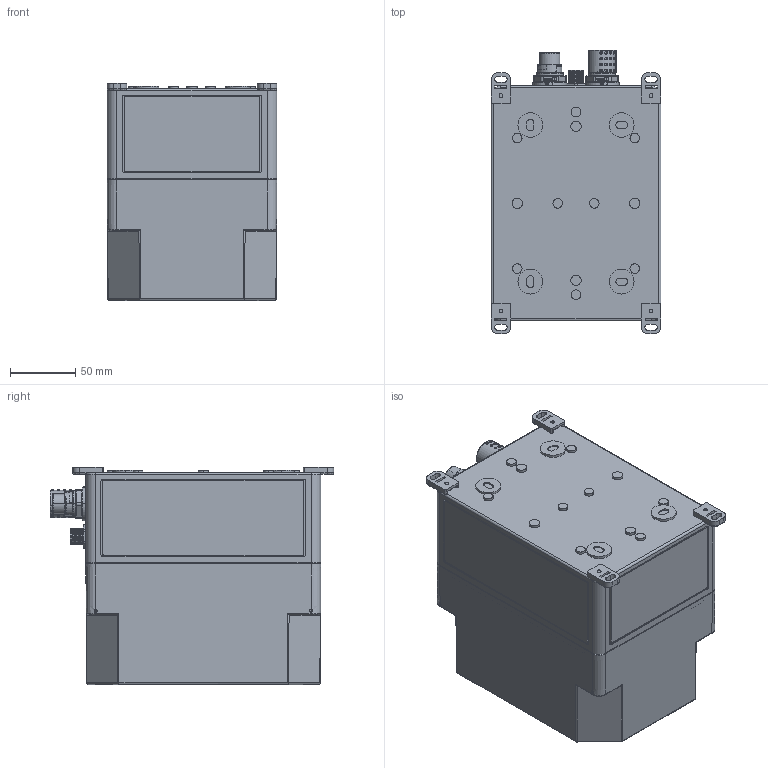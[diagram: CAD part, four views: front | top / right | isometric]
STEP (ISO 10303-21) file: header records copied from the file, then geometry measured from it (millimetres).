
FILE_DESCRIPTION (( 'STEP AP214' ), '1' );
FILE_NAME ('vereinfacht_1148566.STEP', '2020-02-25T14:59:14', ( '' ), ( '' ), 'SwSTEP 2.0', 'SolidWorks 2019', '' );
FILE_SCHEMA (( 'AUTOMOTIVE_DESIGN' ));
Length unit declared in the file: millimetre
Products named in the file (1): vereinfacht_1148566
Bounding box: 130 x 217.43 x 166.4 mm (x, y, z)
Surface area: 330816 mm2 (no closed solid volume)
Topology: 0 solids, 30 shells, 2487 faces, 6938 edges, 4607 vertices
Faces by surface type: plane 1201, cylinder 729, bspline 366, cone 98, torus 77, sphere 16
Entity records: 127871 total; most frequent: CARTESIAN_POINT 39612, ORIENTED_EDGE 13021, DIRECTION 11507, EDGE_CURVE 6893, VERTEX_POINT 4591, AXIS2_PLACEMENT_3D 3934, VECTOR 3639, LINE 3639
